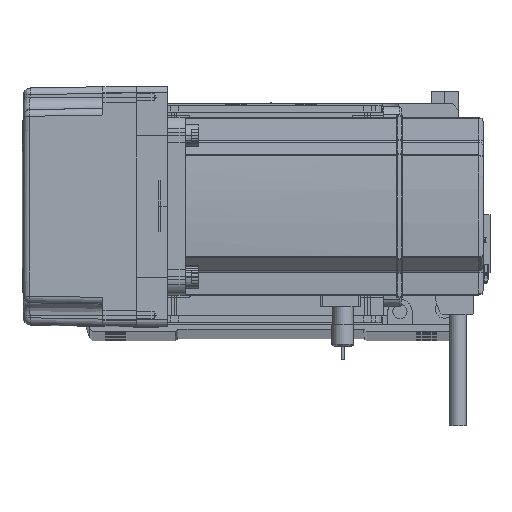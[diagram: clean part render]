
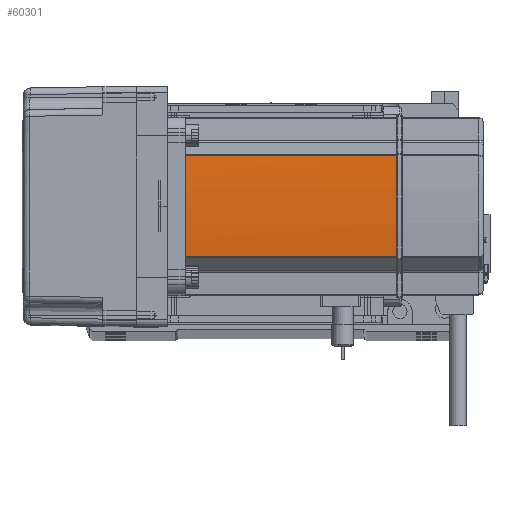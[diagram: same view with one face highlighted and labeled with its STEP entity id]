
A CAD part, top view. The second image highlights one B-rep face of the part: STEP entity #60301.
In plain terms, the highlighted cylindrical face has radius 270 mm (diameter 540 mm), a partial arc.
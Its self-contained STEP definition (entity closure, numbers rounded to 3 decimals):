
#2972 = EDGE_CURVE ( 'NONE', #47700, #49378, #6674, .T. ) ;
#3079 = VECTOR ( 'NONE', #42542, 1000. ) ;
#4125 = CARTESIAN_POINT ( 'NONE',  ( 39.042, -22.724, 39. ) ) ;
#4695 = AXIS2_PLACEMENT_3D ( 'NONE', #22697, #7450, #61858 ) ;
#4726 = CARTESIAN_POINT ( 'NONE',  ( 40., -0.127, 134. ) ) ;
#6309 = VERTEX_POINT ( 'NONE', #4726 ) ;
#6674 = CIRCLE ( 'NONE', #13897, 270. ) ;
#7450 = DIRECTION ( 'NONE',  ( 0., 0., -1. ) ) ;
#7462 = EDGE_CURVE ( 'NONE', #25634, #58935, #25036, .T. ) ;
#7518 = CARTESIAN_POINT ( 'NONE',  ( 39.042, 22.724, 134. ) ) ;
#9511 = ORIENTED_EDGE ( 'NONE', *, *, #57637, .T. ) ;
#9789 = EDGE_CURVE ( 'NONE', #6309, #50969, #18529, .T. ) ;
#13897 = AXIS2_PLACEMENT_3D ( 'NONE', #32905, #18329, #42931 ) ;
#16190 = CARTESIAN_POINT ( 'NONE',  ( 40., -0.127, 134. ) ) ;
#16218 = VECTOR ( 'NONE', #28807, 1000. ) ;
#17775 = LINE ( 'NONE', #29651, #16218 ) ;
#18037 = FACE_OUTER_BOUND ( 'NONE', #55518, .T. ) ;
#18061 = ORIENTED_EDGE ( 'NONE', *, *, #7462, .T. ) ;
#18329 = DIRECTION ( 'NONE',  ( 0., 0., -1. ) ) ;
#18529 = CIRCLE ( 'NONE', #57343, 270. ) ;
#20493 = CARTESIAN_POINT ( 'NONE',  ( 40., -0.042, 134. ) ) ;
#22697 = CARTESIAN_POINT ( 'NONE',  ( -230., 0., 134. ) ) ;
#25036 = CIRCLE ( 'NONE', #4695, 270. ) ;
#25634 = VERTEX_POINT ( 'NONE', #7518 ) ;
#27704 = CARTESIAN_POINT ( 'NONE',  ( 39.042, 22.724, 39. ) ) ;
#28428 = DIRECTION ( 'NONE',  ( -1., 0., 0. ) ) ;
#28807 = DIRECTION ( 'NONE',  ( 0., 0., 1. ) ) ;
#29452 = EDGE_CURVE ( 'NONE', #6309, #58935, #37889, .T. ) ;
#29651 = CARTESIAN_POINT ( 'NONE',  ( 39.042, 22.724, 58. ) ) ;
#32905 = CARTESIAN_POINT ( 'NONE',  ( -230., 0., 39. ) ) ;
#33386 = CYLINDRICAL_SURFACE ( 'NONE', #40138, 270. ) ;
#33555 = DIRECTION ( 'NONE',  ( 0., 0., -1. ) ) ;
#37262 = ORIENTED_EDGE ( 'NONE', *, *, #9789, .T. ) ;
#37889 = B_SPLINE_CURVE_WITH_KNOTS ( 'NONE', 3,
 ( #16190, #20493, #54722, #40385 ),
 .UNSPECIFIED., .F., .F.,
 ( 4, 4 ),
 ( 0., 1. ),
 .UNSPECIFIED. ) ;
#38245 = CARTESIAN_POINT ( 'NONE',  ( -230., 0., 58. ) ) ;
#39668 = ORIENTED_EDGE ( 'NONE', *, *, #29452, .F. ) ;
#40138 = AXIS2_PLACEMENT_3D ( 'NONE', #38245, #33555, #28428 ) ;
#40385 = CARTESIAN_POINT ( 'NONE',  ( 40., 0.127, 134. ) ) ;
#42071 = DIRECTION ( 'NONE',  ( -1., 0., 0. ) ) ;
#42509 = DIRECTION ( 'NONE',  ( 0., 0., -1. ) ) ;
#42542 = DIRECTION ( 'NONE',  ( 0., 0., -1. ) ) ;
#42931 = DIRECTION ( 'NONE',  ( -1., 0., 0. ) ) ;
#45867 = ORIENTED_EDGE ( 'NONE', *, *, #51705, .T. ) ;
#46800 = CARTESIAN_POINT ( 'NONE',  ( -230., 0., 134. ) ) ;
#47700 = VERTEX_POINT ( 'NONE', #27704 ) ;
#49378 = VERTEX_POINT ( 'NONE', #4125 ) ;
#50969 = VERTEX_POINT ( 'NONE', #60583 ) ;
#51543 = ORIENTED_EDGE ( 'NONE', *, *, #2972, .F. ) ;
#51705 = EDGE_CURVE ( 'NONE', #47700, #25634, #17775, .T. ) ;
#52370 = CARTESIAN_POINT ( 'NONE',  ( 39.042, -22.724, 58. ) ) ;
#52386 = CARTESIAN_POINT ( 'NONE',  ( 40., 0.127, 134. ) ) ;
#54722 = CARTESIAN_POINT ( 'NONE',  ( 40., 0.042, 134. ) ) ;
#55518 = EDGE_LOOP ( 'NONE', ( #9511, #51543, #45867, #18061, #39668, #37262 ) ) ;
#57343 = AXIS2_PLACEMENT_3D ( 'NONE', #46800, #42509, #42071 ) ;
#57637 = EDGE_CURVE ( 'NONE', #50969, #49378, #59759, .T. ) ;
#58935 = VERTEX_POINT ( 'NONE', #52386 ) ;
#59759 = LINE ( 'NONE', #52370, #3079 ) ;
#60301 = ADVANCED_FACE ( 'NONE', ( #18037 ), #33386, .T. ) ;
#60583 = CARTESIAN_POINT ( 'NONE',  ( 39.042, -22.724, 134. ) ) ;
#61858 = DIRECTION ( 'NONE',  ( -1., 0., 0. ) ) ;
